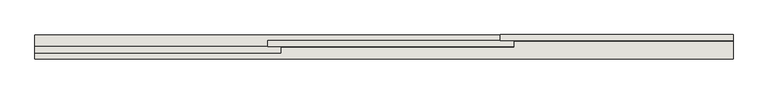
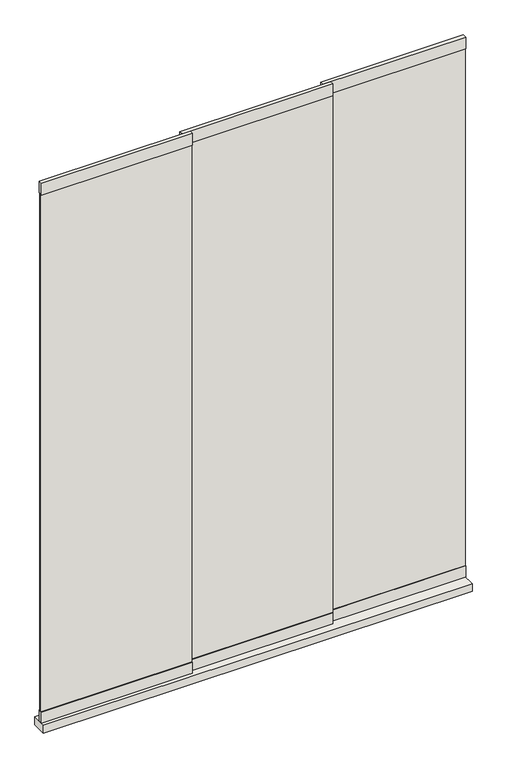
"""IFC4 building model written with IfcOpenShell, lengths in millimetres: wall geometry, Renson_Camargue_Glass_Sliding_Panel : Renson_Camargue_Glass_Sliding_Panel."""

from ifc_helpers import new_model, si_unit, frame, origin, origin_with_axes, place, context, project, spatial, polyline, outline, extrude, source, transform, mapped, element, save


def wall_16a51fea(model_context):
    return source(origin(), model_context, "Body", "SweptSolid", [
        extrude(outline(polyline([(750.0, 0.0), (750.0, -64.0), (-1100.0, -64.0), (-1100.0, 0.0), (750.0, 0.0)])), origin_with_axes(), (0.0, 0.0, 1.0), 35.0),
        extrude(outline(polyline([(750.0, -3.0), (750.0, -13.0), (133.3333333, -13.0), (133.3333333, -3.0), (750.0, -3.0)])), frame((0.0, 0.0, 86.0), z_axis=(0.0, 0.0, 1.0), x_axis=(1.0, 0.0, 0.0)), (0.0, 0.0, 1.0), 2360.0),
        extrude(outline(polyline([(168.3333333, -19.0), (168.3333333, -29.0), (-483.3333333, -29.0), (-483.3333333, -19.0), (168.3333333, -19.0)])), frame((0.0, 0.0, 86.0), z_axis=(0.0, 0.0, 1.0), x_axis=(1.0, 0.0, 0.0)), (0.0, 0.0, 1.0), 2360.0),
        extrude(outline(polyline([(-448.3333333, -35.0), (-448.3333333, -45.0), (-1100.0, -45.0), (-1100.0, -35.0), (-448.3333333, -35.0)])), frame((0.0, 0.0, 86.0), z_axis=(0.0, 0.0, 1.0), x_axis=(1.0, 0.0, 0.0)), (0.0, 0.0, 1.0), 2360.0),
        extrude(outline(polyline([(750.0, 0.0), (750.0, -16.0), (133.3333333, -16.0), (133.3333333, 0.0), (750.0, 0.0)])), frame((0.0, 0.0, 2446.0), z_axis=(0.0, 0.0, 1.0), x_axis=(1.0, 0.0, 0.0)), (0.0, 0.0, 1.0), 54.0),
        extrude(outline(polyline([(168.3333333, -16.0), (168.3333333, -32.0), (-483.3333333, -32.0), (-483.3333333, -16.0), (168.3333333, -16.0)])), frame((0.0, 0.0, 2446.0), z_axis=(0.0, 0.0, 1.0), x_axis=(1.0, 0.0, 0.0)), (0.0, 0.0, 1.0), 54.0),
        extrude(outline(polyline([(-448.3333333, -32.0), (-448.3333333, -48.0), (-1100.0, -48.0), (-1100.0, -32.0), (-448.3333333, -32.0)])), frame((0.0, 0.0, 2446.0), z_axis=(0.0, 0.0, 1.0), x_axis=(1.0, 0.0, 0.0)), (0.0, 0.0, 1.0), 54.0),
        extrude(outline(polyline([(750.0, 0.0), (750.0, -16.0), (133.3333333, -16.0), (133.3333333, 0.0), (750.0, 0.0)])), frame((0.0, 0.0, 35.0), z_axis=(0.0, 0.0, 1.0), x_axis=(1.0, 0.0, 0.0)), (0.0, 0.0, 1.0), 51.0),
        extrude(outline(polyline([(168.3333333, -16.0), (168.3333333, -32.0), (-483.3333333, -32.0), (-483.3333333, -16.0), (168.3333333, -16.0)])), frame((0.0, 0.0, 35.0), z_axis=(0.0, 0.0, 1.0), x_axis=(1.0, 0.0, 0.0)), (0.0, 0.0, 1.0), 51.0),
        extrude(outline(polyline([(-448.3333333, -32.0), (-448.3333333, -48.0), (-1100.0, -48.0), (-1100.0, -32.0), (-448.3333333, -32.0)])), frame((0.0, 0.0, 35.0), z_axis=(0.0, 0.0, 1.0), x_axis=(1.0, 0.0, 0.0)), (0.0, 0.0, 1.0), 51.0),
    ])


if __name__ == "__main__":
    model = new_model("IFC4")
    model_context = context("Model", 3, world=origin())
    ifc_project = project(units=[si_unit("LENGTHUNIT", "METRE", prefix="MILLI")], contexts=[model_context])
    site = spatial("IfcSite", under=ifc_project)
    building = spatial("IfcBuilding", under=site)
    placement = place(None, origin())
    wall_shape = wall_16a51fea(model_context)
    element("IfcWall", 1, ObjectType="Renson_Camargue_Glass_Sliding_Panel : Renson_Camargue_Glass_Sliding_Panel", at=placement, inside=building, context=model_context, shape_type="MappedRepresentation", body=[
        mapped(wall_shape, transform((0.0, 0.0, 0.0), x_axis=(1.0, 0.0, 0.0), y_axis=(0.0, 1.0, 0.0), z_axis=(0.0, 0.0, 1.0))),
    ])
    save(model, "model.ifc")
